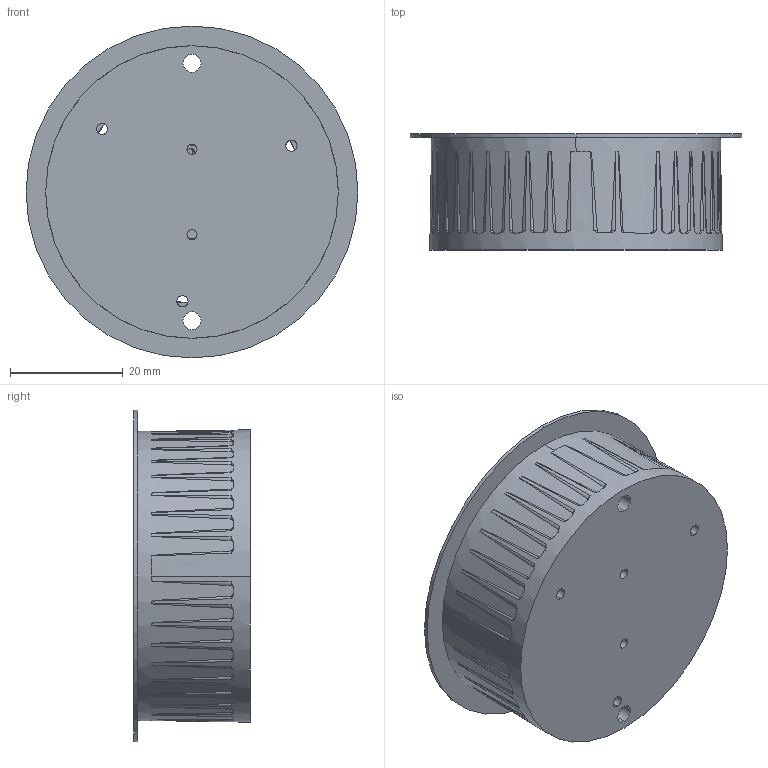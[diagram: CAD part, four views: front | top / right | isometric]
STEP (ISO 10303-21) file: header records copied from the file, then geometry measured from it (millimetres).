
FILE_DESCRIPTION((''),'2;1');
FILE_NAME('TA001-09012_ASM_ASM','2011-11-10T',('95124'),(''),'PRO/ENGINEER BY PARAMETRIC TECHNOLOGY CORPORATION, 2005110','PRO/ENGINEER BY PARAMETRIC TECHNOLOGY CORPORATION, 2005110','');
FILE_SCHEMA(('CONFIG_CONTROL_DESIGN'));
Products named in the file (6): SINK5_DIECASTING_1020_1_1_1; RING_1; ASM0004_ASM; E-DISH_0416_1_5; ASM0001_ASM_ASM_ASM; TA001-09012_ASM_ASM
Assembly tree (5 placements, depth 4):
  TA001-09012_ASM_ASM
    ASM0001_ASM_ASM_ASM
      ASM0004_ASM
        SINK5_DIECASTING_1020_1_1_1
        RING_1
      E-DISH_0416_1_5
Bounding box: 59 x 20.65 x 59 mm (x, y, z)
Volume: 22424.8 mm3; surface area: 15038.2 mm2
Topology: 3 solids, 3 shells, 1032 faces, 2865 edges, 1870 vertices
Faces by surface type: cylinder 321, torus 202, plane 201, bspline 184, cone 100, sphere 24
Entity records: 45681 total; most frequent: CARTESIAN_POINT 19529, ORIENTED_EDGE 5682, DIRECTION 5577, EDGE_CURVE 2841, AXIS2_PLACEMENT_3D 2494, VERTEX_POINT 1870, CIRCLE 1631, EDGE_LOOP 1119
